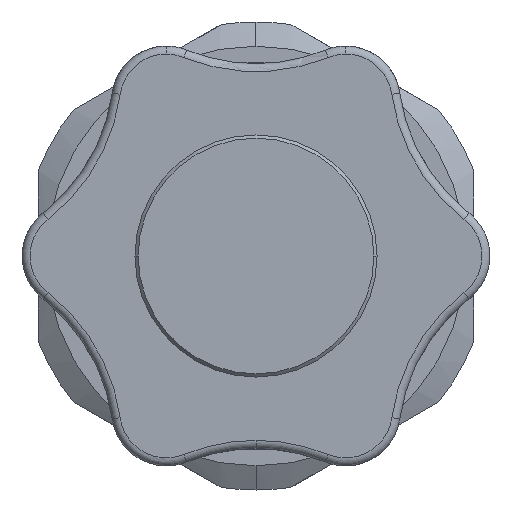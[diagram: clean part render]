
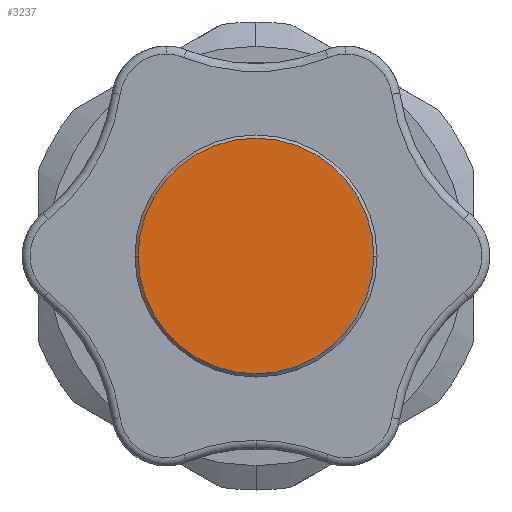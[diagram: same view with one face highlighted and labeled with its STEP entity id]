
A CAD part, left-side view. The second image highlights one B-rep face of the part: STEP entity #3237.
In plain terms, the highlighted planar face has unit normal (-1, 0, 0).
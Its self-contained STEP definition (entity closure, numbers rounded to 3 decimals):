
#312 = CARTESIAN_POINT ( 'NONE',  ( -48.7, -7.3, 0. ) ) ;
#481 = CARTESIAN_POINT ( 'NONE',  ( -48.7, 0., 0. ) ) ;
#797 = CARTESIAN_POINT ( 'NONE',  ( -48.7, 7.3, 0. ) ) ;
#885 = EDGE_CURVE ( 'NONE', #6584, #1462, #3949, .T. ) ;
#1020 = DIRECTION ( 'NONE',  ( 0., -1., 0. ) ) ;
#1241 = DIRECTION ( 'NONE',  ( -1., 0., 0. ) ) ;
#1303 = DIRECTION ( 'NONE',  ( 1., 0., 0. ) ) ;
#1356 = CIRCLE ( 'NONE', #5891, 7.3 ) ;
#1462 = VERTEX_POINT ( 'NONE', #312 ) ;
#2126 = ORIENTED_EDGE ( 'NONE', *, *, #4234, .F. ) ;
#2578 = ORIENTED_EDGE ( 'NONE', *, *, #885, .F. ) ;
#3237 = ADVANCED_FACE ( 'NONE', ( #4079 ), #4843, .T. ) ;
#3304 = EDGE_LOOP ( 'NONE', ( #2126, #2578 ) ) ;
#3924 = AXIS2_PLACEMENT_3D ( 'NONE', #4334, #1241, #4863 ) ;
#3949 = CIRCLE ( 'NONE', #5424, 7.3 ) ;
#4079 = FACE_OUTER_BOUND ( 'NONE', #3304, .T. ) ;
#4128 = DIRECTION ( 'NONE',  ( 1., 0., 0. ) ) ;
#4234 = EDGE_CURVE ( 'NONE', #1462, #6584, #1356, .T. ) ;
#4334 = CARTESIAN_POINT ( 'NONE',  ( -48.7, 0., 0. ) ) ;
#4843 = PLANE ( 'NONE',  #3924 ) ;
#4863 = DIRECTION ( 'NONE',  ( 0., 1., 0. ) ) ;
#5424 = AXIS2_PLACEMENT_3D ( 'NONE', #5738, #1303, #6621 ) ;
#5738 = CARTESIAN_POINT ( 'NONE',  ( -48.7, 0., 0. ) ) ;
#5891 = AXIS2_PLACEMENT_3D ( 'NONE', #481, #4128, #1020 ) ;
#6584 = VERTEX_POINT ( 'NONE', #797 ) ;
#6621 = DIRECTION ( 'NONE',  ( 0., -1., 0. ) ) ;
